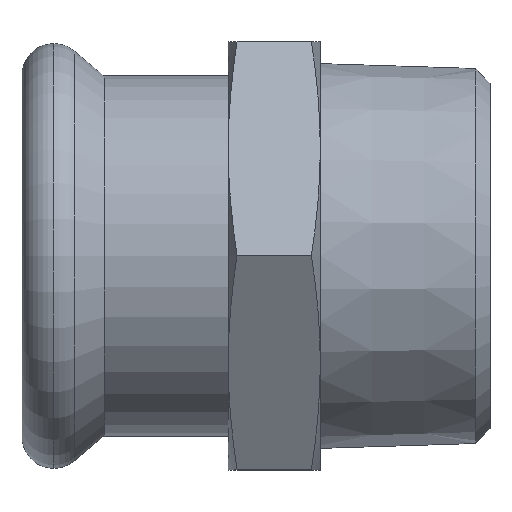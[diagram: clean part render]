
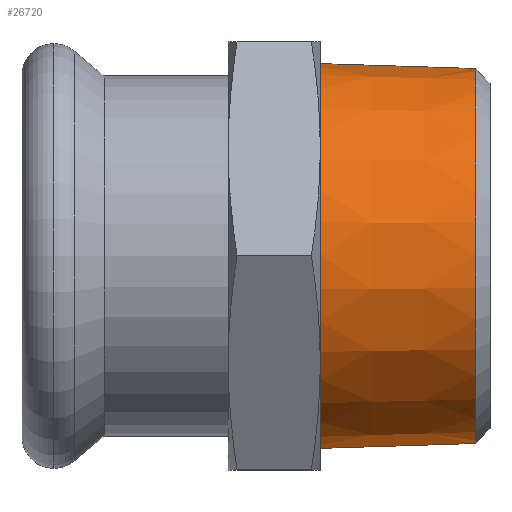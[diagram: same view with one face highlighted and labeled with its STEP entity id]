
A CAD part, top view. The second image highlights one B-rep face of the part: STEP entity #26720.
In plain terms, the highlighted conical face has half-angle 1.79 degrees and reference radius 24.25 mm.
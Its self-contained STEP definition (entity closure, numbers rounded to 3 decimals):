
#10=CARTESIAN_POINT('',(-75.571,-571.484,
0.));
#20=DIRECTION('',(-1.,0.,0.));
#30=DIRECTION('',(0.,-1.,0.));
#40=AXIS2_PLACEMENT_3D('',#10,#20,#30);
#50=CONICAL_SURFACE('',#40,24.25,0.031);
#60=CARTESIAN_POINT('',(-75.571,-547.234,
0.));
#70=DIRECTION('',(-1.,0.031,
0.));
#80=VECTOR('',#70,1.);
#90=LINE('',#60,#80);
#100=CARTESIAN_POINT('',(-55.97,-547.846,
0.));
#110=VERTEX_POINT('',#100);
#120=CARTESIAN_POINT('',(-75.571,-547.234,
0.));
#130=VERTEX_POINT('',#120);
#140=EDGE_CURVE('',#110,#130,#90,.T.);
#160=CARTESIAN_POINT('',(-75.571,-571.484,
0.));
#170=DIRECTION('',(-1.,0.,0.));
#180=DIRECTION('',(0.,-1.,0.));
#190=AXIS2_PLACEMENT_3D('',#160,#170,#180);
#200=CIRCLE('',#190,24.25);
#210=CARTESIAN_POINT('',(-75.571,-595.734,
0.));
#220=VERTEX_POINT('',#210);
#250=CARTESIAN_POINT('',(-75.571,-595.734,
0.));
#260=DIRECTION('',(-1.,-0.031,
0.));
#270=VECTOR('',#260,1.);
#280=LINE('',#250,#270);
#290=CARTESIAN_POINT('',(-55.97,-595.121,
0.));
#300=VERTEX_POINT('',#290);
#310=EDGE_CURVE('',#300,#220,#280,.T.);
#330=CARTESIAN_POINT('',(-55.97,-571.484,
0.));
#340=DIRECTION('',(-1.,0.,0.));
#350=DIRECTION('',(0.,-1.,0.));
#360=AXIS2_PLACEMENT_3D('',#330,#340,#350);
#370=CIRCLE('',#360,23.637);
#14350=EDGE_CURVE('',#220,#130,#200,.T.);
#26170=EDGE_CURVE('',#300,#110,#370,.T.);
#26660=ORIENTED_EDGE('',*,*,#140,.T.);
#26670=ORIENTED_EDGE('',*,*,#26170,.T.);
#26680=ORIENTED_EDGE('',*,*,#310,.F.);
#26690=ORIENTED_EDGE('',*,*,#14350,.F.);
#26700=EDGE_LOOP('',(#26690,#26680,#26670,#26660));
#26710=FACE_OUTER_BOUND('',#26700,.T.);
#26720=ADVANCED_FACE('',(#26710),#50,.T.);
